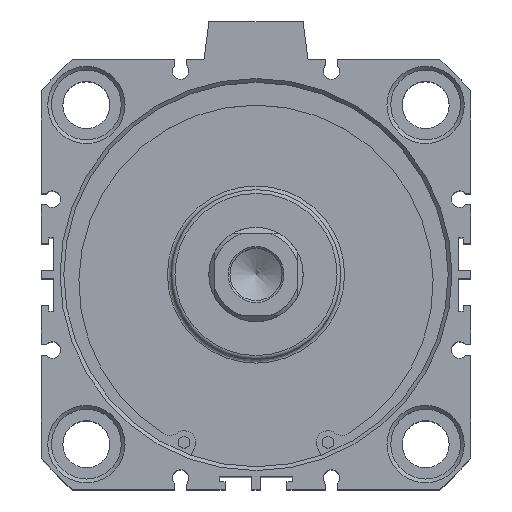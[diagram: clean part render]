
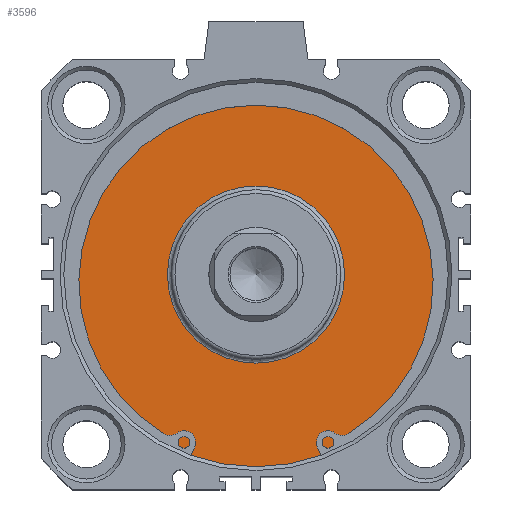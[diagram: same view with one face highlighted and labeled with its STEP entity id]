
A CAD part, top view. The second image highlights one B-rep face of the part: STEP entity #3596.
In plain terms, the highlighted planar face has unit normal (0, 0, 1).
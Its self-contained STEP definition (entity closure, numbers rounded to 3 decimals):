
#3545=CARTESIAN_POINT('',(0.957,25.414,87.6));
#3546=VERTEX_POINT('',#3545);
#3547=CARTESIAN_POINT('',(0.957,1.914,87.6));
#3548=DIRECTION('',(0.0,0.0,1.0));
#3549=DIRECTION('',(0.0,-1.0,0.0));
#3550=AXIS2_PLACEMENT_3D('',#3547,#3548,#3549);
#3551=CIRCLE('',#3550,23.5);
#3552=EDGE_CURVE('',#3546,#3546,#3551,.T.);
#3577=CARTESIAN_POINT('',(0.957,38.664,87.6));
#3578=DIRECTION('',(0.0,0.0,1.0));
#3579=DIRECTION('',(1.0,0.0,0.0));
#3580=AXIS2_PLACEMENT_3D('',#3577,#3578,#3579);
#3581=PLANE('',#3580);
#3582=CARTESIAN_POINT('',(0.957,52.914,87.6));
#3583=VERTEX_POINT('',#3582);
#3584=CARTESIAN_POINT('',(0.957,1.914,87.6));
#3585=DIRECTION('',(0.0,0.0,-1.0));
#3586=DIRECTION('',(0.0,1.0,0.0));
#3587=AXIS2_PLACEMENT_3D('',#3584,#3585,#3586);
#3588=CIRCLE('',#3587,51.);
#3589=EDGE_CURVE('',#3583,#3583,#3588,.T.);
#3590=ORIENTED_EDGE('',*,*,#3589,.F.);
#3591=EDGE_LOOP('',(#3590));
#3592=FACE_OUTER_BOUND('',#3591,.T.);
#3593=ORIENTED_EDGE('',*,*,#3552,.F.);
#3594=EDGE_LOOP('',(#3593));
#3595=FACE_BOUND('',#3594,.T.);
#3596=ADVANCED_FACE('',(#3592,#3595),#3581,.T.);
